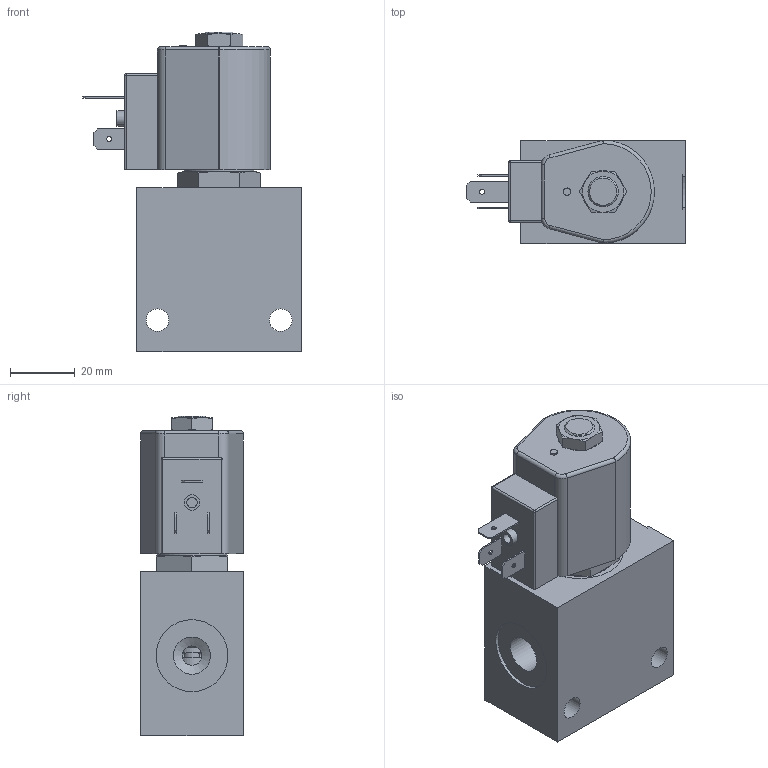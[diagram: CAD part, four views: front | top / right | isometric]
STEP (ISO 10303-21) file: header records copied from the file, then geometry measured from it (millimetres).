
FILE_DESCRIPTION( ( 'Unknown' ), '1' );
FILE_NAME( 'G:/Graphic Design/Graphic Design 2/Data Sheets/SOLENOID OPERATED VALVES/4_STEP/3W2P Spool/HC-S3A00-A3.stp', 'Unknown', ( 'Unknown' ), ( 'Unknown' ), 'PSStep 15.0.49', 'Unknown', ' ' );
FILE_SCHEMA( ( 'AUTOMOTIVE_DESIGN { 1 0 10303 214 1 1 1 1 }' ) );
Length unit declared in the file: millimetre
Products named in the file (12): HCS3A00; HCS3A00-3D Full1; HCS3A00-3D Full2; HCS3A00-3D Full3; HCS3A00-3D Full4; HCS3A00-3D Full5; HCS3A00-3D Full6; D-MHC; MHC; Assem1; B-D-MA-A3A; Delta_3_8_nut1
Assembly tree (11 placements, depth 3):
  Assem1
    B-D-MA-A3A
    Delta_3_8_nut1
    HCS3A00
      HCS3A00-3D Full1
      HCS3A00-3D Full2
      HCS3A00-3D Full3
      HCS3A00-3D Full4
      HCS3A00-3D Full5
      HCS3A00-3D Full6
    D-MHC
      MHC
Bounding box: 67.56 x 31.77 x 98.85 mm (x, y, z)
Volume: 112732.8 mm3; surface area: 30846.9 mm2
Topology: 9 solids, 9 shells, 230 faces, 513 edges, 318 vertices
Faces by surface type: plane 87, cylinder 73, cone 59, torus 7, sphere 4
Full cylindrical faces by diameter (mm): 1.524 x2, 1.536 x1, 2.286 x1, 3.175 x1, 4.293 x1, 4.763 x1, 5.563 x1, 6 x2, 7 x2, 8.166 x1, 8.181 x1, 8.217 x1, 8.379 x1, 8.712 x1, 9.402 x1, 9.525 x1, 9.842 x1, 9.893 x1, 10.312 x1, 10.909 x1, 10.922 x2, 11.151 x1, 11.5 x6, 12.548 x2, 12.586 x1, 12.751 x1, 12.76 x1, 13.081 x1, 13.805 x1, 14.348 x2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
Entity records: 8062 total; most frequent: CARTESIAN_POINT 1440, DIRECTION 1000, ORIENTED_EDGE 784, AXIS2_PLACEMENT_3D 432, EDGE_CURVE 392, EDGE_LOOP 359, VERTEX_POINT 288, FACE_OUTER_BOUND 275
